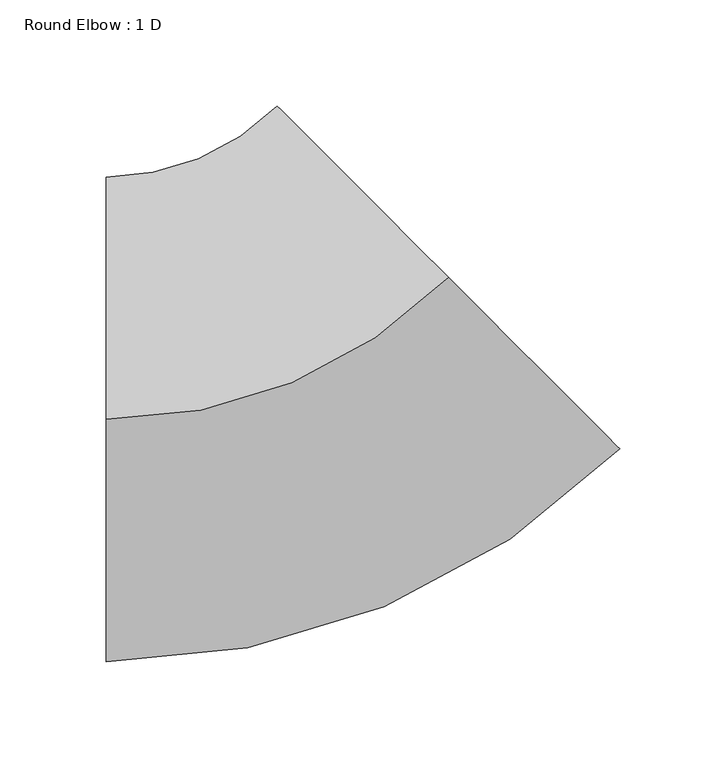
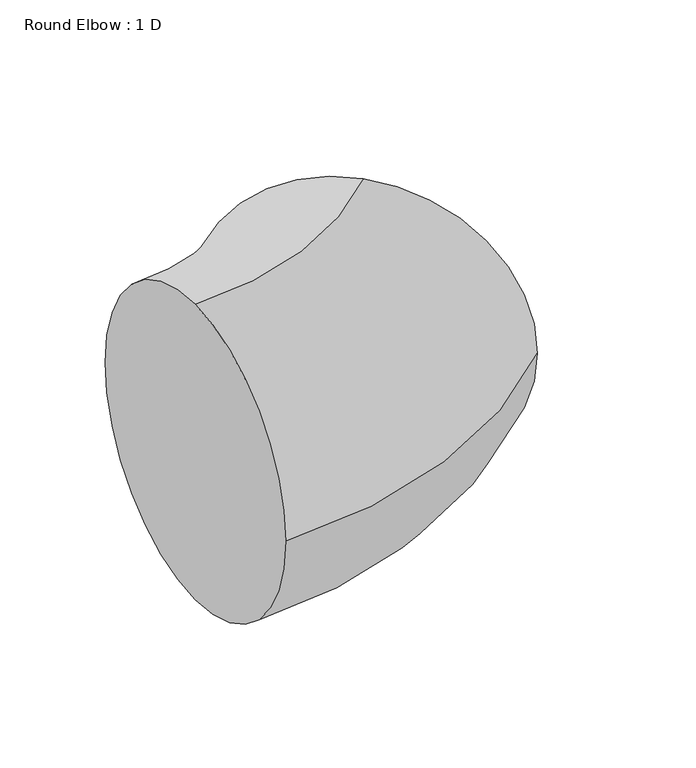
"""IFC4 building model written with IfcOpenShell, lengths in millimetres: duct fitting geometry, Round Elbow : 1 D."""

from ifc_helpers import new_model, si_unit, point, frame, origin, place, context, project, spatial, circle_curve, ellipse_curve, trimmed, source, transform, mapped, element, save
from ifc_brep_helpers import plane_surface, revolved_surface, advanced_brep


def round_elbow_1_d_2e2412f0(model_context):
    return source(origin(), model_context, "Body", "AdvancedBrep", [
        advanced_brep(
        [(-94.6892204, 0.0, 114.3), (-94.6892204, 114.3, 0.0), (-94.6892204, 0.0, -114.3), (-94.6892204, -114.3, 0.0), (66.9553898, 66.9553898, 114.3), (147.7776949, -13.8669153, 0.0), (66.9553898, 66.9553898, -114.3), (-13.8669153, 147.7776949, 0.0)],
        [
            (0, 1, circle_curve(frame((-94.6892204, 0.0, 0.0), z_axis=(-1.0, 0.0, 0.0), x_axis=(0.0, 1.0, 0.0)), 114.3)),
            (1, 2, circle_curve(frame((-94.6892204, 0.0, 0.0), z_axis=(-1.0, 0.0, 0.0), x_axis=(0.0, 1.0, 0.0)), 114.3)),
            (2, 3, circle_curve(frame((-94.6892204, 0.0, 0.0), z_axis=(-1.0, 0.0, 0.0), x_axis=(0.0, 1.0, 0.0)), 114.3)),
            (3, 0, circle_curve(frame((-94.6892204, 0.0, 0.0), z_axis=(-1.0, 0.0, 0.0), x_axis=(0.0, 1.0, 0.0)), 114.3)),
            (4, 5, circle_curve(frame((66.9553898, 66.9553898, 0.0), z_axis=(0.707106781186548, 0.707106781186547, 0.0), x_axis=(-0.707106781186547, 0.707106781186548, 0.0)), 114.3)),
            (5, 6, circle_curve(frame((66.9553898, 66.9553898, 0.0), z_axis=(0.707106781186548, 0.707106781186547, 0.0), x_axis=(-0.707106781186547, 0.707106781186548, 0.0)), 114.3)),
            (6, 7, circle_curve(frame((66.9553898, 66.9553898, 0.0), z_axis=(0.707106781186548, 0.707106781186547, 0.0), x_axis=(-0.707106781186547, 0.707106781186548, 0.0)), 114.3)),
            (7, 4, circle_curve(frame((66.9553898, 66.9553898, 0.0), z_axis=(0.707106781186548, 0.707106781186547, 0.0), x_axis=(-0.707106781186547, 0.707106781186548, 0.0)), 114.3)),
            (7, 1, circle_curve(frame((-94.6892204, 228.6, 0.0), z_axis=(0.0, 0.0, -1.0), x_axis=(0.0, -1.0, 0.0)), 114.3)),
            (0, 4, circle_curve(frame((-94.6892204, 228.6, 114.3), z_axis=(0.0, 0.0, 1.0), x_axis=(0.0, -1.0, 0.0)), 228.6)),
            (6, 2, circle_curve(frame((-94.6892204, 228.6, -114.3), z_axis=(0.0, 0.0, -1.0), x_axis=(0.0, -1.0, 0.0)), 228.6)),
            (5, 3, circle_curve(frame((-94.6892204, 228.6, 0.0), z_axis=(0.0, 0.0, -1.0), x_axis=(0.0, -1.0, 0.0)), 342.9)),
        ],
        [
            plane_surface(frame((-94.6892204, 0.0, 0.0), z_axis=(-1.0, 0.0, 0.0), x_axis=(0.0, 0.0, 1.0))),
            plane_surface(frame((66.9553898, 66.9553898, 0.0), z_axis=(0.707106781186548, 0.7071067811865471, 0.0), x_axis=(0.0, 0.0, 1.0))),
            revolved_surface(trimmed(ellipse_curve(frame((-94.6892204, 0.0, 0.0), z_axis=(-1.0, 0.0, 0.0), x_axis=(0.0, 1.0, 0.0)), 114.3, 114.3), [point((-94.6892204, 0.0, 114.3))], [point((-94.6892204, 114.3, 0.0))], True, "CARTESIAN"), (-94.6892204, 228.6, 0.0), (0.0, 0.0, 1.0)),
            revolved_surface(trimmed(ellipse_curve(frame((-94.6892204, 0.0, 0.0), z_axis=(-1.0, 0.0, 0.0), x_axis=(0.0, 1.0, 0.0)), 114.3, 114.3), [point((-94.6892204, 114.3, 0.0))], [point((-94.6892204, 0.0, -114.3))], True, "CARTESIAN"), (-94.6892204, 228.6, 0.0), (0.0, 0.0, 1.0)),
            revolved_surface(trimmed(ellipse_curve(frame((-94.6892204, 0.0, 0.0), z_axis=(-1.0, 0.0, 0.0), x_axis=(0.0, 1.0, 0.0)), 114.3, 114.3), [point((-94.6892204, 0.0, -114.3))], [point((-94.6892204, -114.3, 0.0))], True, "CARTESIAN"), (-94.6892204, 228.6, 0.0), (0.0, 0.0, 1.0)),
            revolved_surface(trimmed(ellipse_curve(frame((-94.6892204, 0.0, 0.0), z_axis=(-1.0, 0.0, 0.0), x_axis=(0.0, 1.0, 0.0)), 114.3, 114.3), [point((-94.6892204, -114.3, 0.0))], [point((-94.6892204, 0.0, 114.3))], True, "CARTESIAN"), (-94.6892204, 228.6, 0.0), (0.0, 0.0, 1.0)),
        ],
        [
            (0, [[1, 2, 3, 4]]),
            (1, [[5, 6, 7, 8]]),
            (2, [[9, -1, 10, -8]]),
            (3, [[11, -2, -9, -7]]),
            (4, [[12, -3, -11, -6]]),
            (5, [[-10, -4, -12, -5]]),
        ],
    ),
    ])


if __name__ == "__main__":
    model = new_model("IFC4")
    model_context = context("Model", 3, world=origin())
    ifc_project = project(units=[si_unit("LENGTHUNIT", "METRE", prefix="MILLI")], contexts=[model_context])
    site = spatial("IfcSite", under=ifc_project)
    building = spatial("IfcBuilding", under=site)
    placement = place(None, origin())
    round_elbow_1_d_shape = round_elbow_1_d_2e2412f0(model_context)
    element("IfcDuctFitting", 1, ObjectType="Round Elbow : 1 D", at=placement, inside=building, context=model_context, shape_type="MappedRepresentation", body=[
        mapped(round_elbow_1_d_shape, transform((0.0, 0.0, 0.0), x_axis=(1.0, 0.0, 0.0), y_axis=(0.0, 1.0, 0.0), z_axis=(0.0, 0.0, 1.0))),
    ])
    save(model, "model.ifc")
